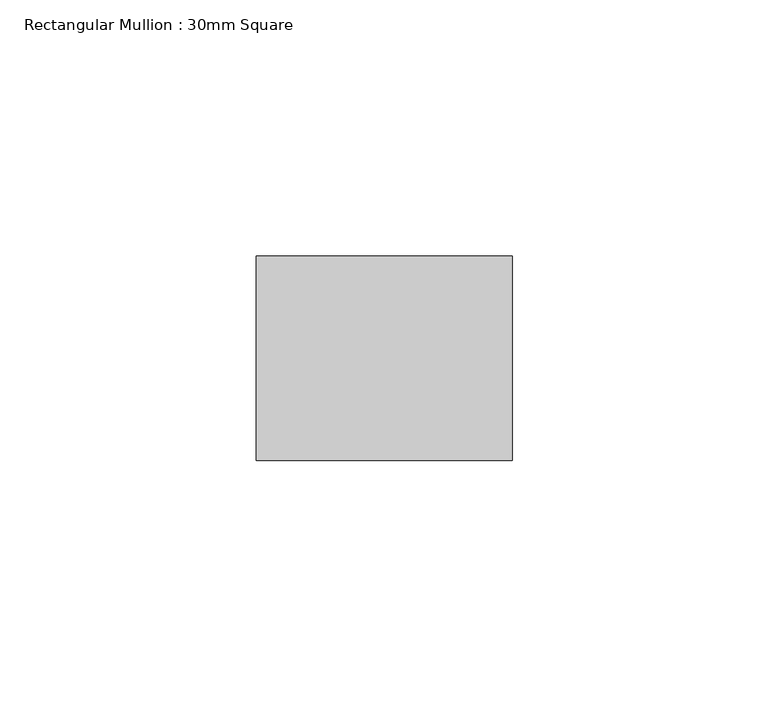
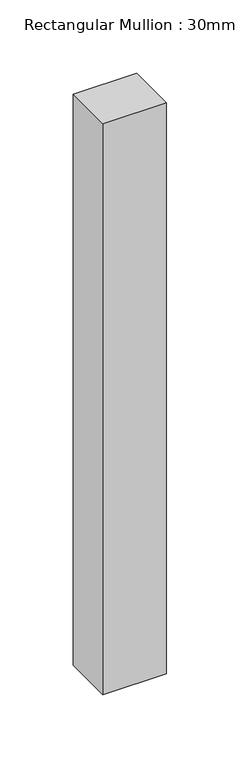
"""IFC4 building model written with IfcOpenShell, lengths in millimetres: member geometry, Rectangular Mullion : 30mm Square."""

from ifc_helpers import new_model, si_unit, frame, origin, place, context, project, spatial, polyline, outline, extrude, source, transform, mapped, element, save


def rectangular_mullion_30mm_square_420f87d1(model_context):
    return source(origin(), model_context, "Body", "SweptSolid", [
        extrude(outline(polyline([(0.0, 20.0), (0.0, -20.0), (-50.0, -20.0), (-50.0, 20.0), (0.0, 20.0)])), frame((0.0, 0.0, -475.0), z_axis=(0.0, 0.0, 1.0), x_axis=(1.0, 0.0, 0.0)), (0.0, 0.0, 1.0), 475.0),
    ])


if __name__ == "__main__":
    model = new_model("IFC4")
    model_context = context("Model", 3, world=origin())
    ifc_project = project(units=[si_unit("LENGTHUNIT", "METRE", prefix="MILLI")], contexts=[model_context])
    site = spatial("IfcSite", under=ifc_project)
    building = spatial("IfcBuilding", under=site)
    placement = place(None, origin())
    rectangular_mullion_30mm_square_shape = rectangular_mullion_30mm_square_420f87d1(model_context)
    element("IfcMember", 1, ObjectType="Rectangular Mullion : 30mm Square", at=placement, inside=building, context=model_context, shape_type="MappedRepresentation", body=[
        mapped(rectangular_mullion_30mm_square_shape, transform((0.0, 0.0, 0.0), x_axis=(1.0, 0.0, 0.0), y_axis=(0.0, 1.0, 0.0), z_axis=(0.0, 0.0, 1.0))),
    ])
    save(model, "model.ifc")
